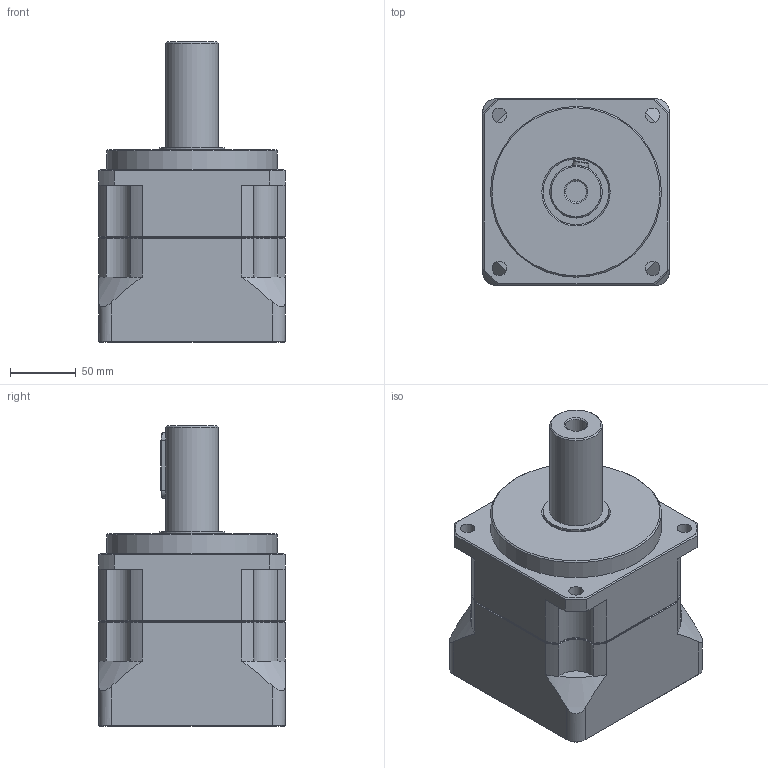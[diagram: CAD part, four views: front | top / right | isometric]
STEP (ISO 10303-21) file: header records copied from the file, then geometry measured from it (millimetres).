
FILE_DESCRIPTION (( 'STEP AP203' ), '1' );
FILE_NAME ('JHP142.STEP', '2015-02-26T06:42:53', ( 'wang' ), ( '' ), 'SwSTEP 2.0', 'SolidWorks 2013', '' );
FILE_SCHEMA (( 'CONFIG_CONTROL_DESIGN' ));
Length unit declared in the file: millimetre
Products named in the file (1): JHP142
Bounding box: 142 x 142 x 228.5 mm (x, y, z)
Volume: 2291544.2 mm3; surface area: 200224.8 mm2
Topology: 3 solids, 3 shells, 155 faces, 342 edges, 205 vertices
Faces by surface type: cylinder 54, plane 52, cone 47, torus 2
Full cylindrical faces by diameter (mm): 8 x4, 11 x4, 14 x1, 16 x1, 28 x1, 40 x1, 45 x1, 50 x2, 90 x1, 110 x1, 130 x1
Entity records: 4523 total; most frequent: CARTESIAN_POINT 1135, DIRECTION 718, ORIENTED_EDGE 622, EDGE_CURVE 311, AXIS2_PLACEMENT_3D 306, EDGE_LOOP 208, VERTEX_POINT 203, FACE_OUTER_BOUND 173
